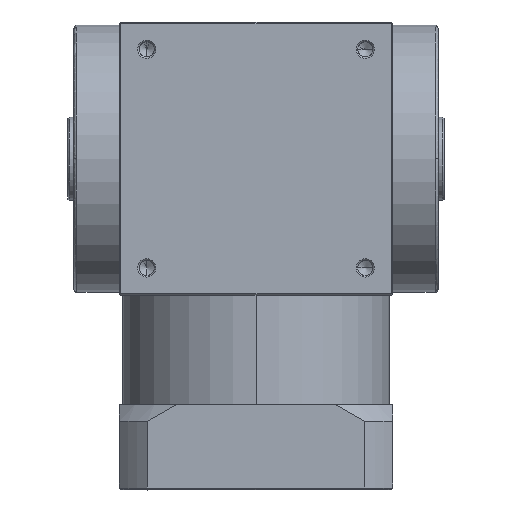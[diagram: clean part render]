
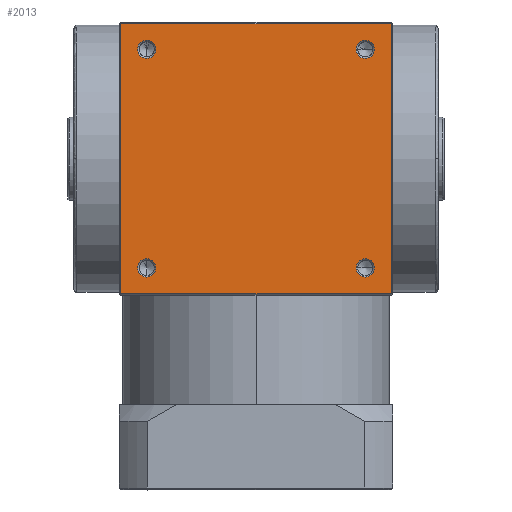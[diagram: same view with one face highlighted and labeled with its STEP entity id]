
A CAD part, top view. The second image highlights one B-rep face of the part: STEP entity #2013.
In plain terms, the highlighted planar face has unit normal (0, 0, 1).
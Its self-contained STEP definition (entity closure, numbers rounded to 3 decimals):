
#61 = VERTEX_POINT ( 'NONE', #9360 ) ;
#226 = EDGE_CURVE ( 'NONE', #9577, #5199, #6725, .T. ) ;
#325 = CIRCLE ( 'NONE', #4243, 3. ) ;
#573 = CIRCLE ( 'NONE', #5716, 3. ) ;
#1166 = ORIENTED_EDGE ( 'NONE', *, *, #6539, .F. ) ;
#1169 = CIRCLE ( 'NONE', #9076, 3. ) ;
#1264 = CARTESIAN_POINT ( 'NONE',  ( 44.5, -44.5, 45. ) ) ;
#1687 = DIRECTION ( 'NONE',  ( 1., 0., 0. ) ) ;
#1734 = DIRECTION ( 'NONE',  ( 0., 0., 1. ) ) ;
#1798 = CARTESIAN_POINT ( 'NONE',  ( -36., 36., 45. ) ) ;
#1849 = DIRECTION ( 'NONE',  ( -1., 0., 0. ) ) ;
#1899 = CARTESIAN_POINT ( 'NONE',  ( 39., 36., 45. ) ) ;
#1901 = LINE ( 'NONE', #7416, #4098 ) ;
#1995 = CIRCLE ( 'NONE', #3889, 3. ) ;
#2007 = EDGE_LOOP ( 'NONE', ( #2630, #6371 ) ) ;
#2013 = ADVANCED_FACE ( 'NONE', ( #5605, #9694, #7586, #4809, #10991 ), #8038, .F. ) ;
#2275 = VERTEX_POINT ( 'NONE', #10968 ) ;
#2606 = VECTOR ( 'NONE', #9851, 1000. ) ;
#2630 = ORIENTED_EDGE ( 'NONE', *, *, #7395, .F. ) ;
#2709 = ORIENTED_EDGE ( 'NONE', *, *, #10804, .F. ) ;
#2773 = EDGE_LOOP ( 'NONE', ( #9977, #1166 ) ) ;
#2821 = DIRECTION ( 'NONE',  ( 0., -1., 0. ) ) ;
#2822 = DIRECTION ( 'NONE',  ( -1., 0., 0. ) ) ;
#2952 = AXIS2_PLACEMENT_3D ( 'NONE', #1798, #1734, #1687 ) ;
#3051 = CARTESIAN_POINT ( 'NONE',  ( -33., -36., 45. ) ) ;
#3157 = ORIENTED_EDGE ( 'NONE', *, *, #11716, .F. ) ;
#3234 = CARTESIAN_POINT ( 'NONE',  ( 44.5, 44.5, 45. ) ) ;
#3246 = VERTEX_POINT ( 'NONE', #1899 ) ;
#3523 = EDGE_LOOP ( 'NONE', ( #9446, #2709 ) ) ;
#3889 = AXIS2_PLACEMENT_3D ( 'NONE', #10894, #5395, #11817 ) ;
#3924 = VERTEX_POINT ( 'NONE', #5522 ) ;
#4098 = VECTOR ( 'NONE', #2821, 1000. ) ;
#4243 = AXIS2_PLACEMENT_3D ( 'NONE', #5262, #5224, #5197 ) ;
#4749 = ORIENTED_EDGE ( 'NONE', *, *, #226, .F. ) ;
#4795 = VERTEX_POINT ( 'NONE', #10611 ) ;
#4809 = FACE_BOUND ( 'NONE', #2007, .T. ) ;
#4875 = EDGE_LOOP ( 'NONE', ( #4749, #9554 ) ) ;
#4955 = EDGE_CURVE ( 'NONE', #3246, #7680, #573, .T. ) ;
#4978 = EDGE_CURVE ( 'NONE', #2275, #6315, #7058, .T. ) ;
#5046 = VERTEX_POINT ( 'NONE', #7870 ) ;
#5197 = DIRECTION ( 'NONE',  ( 1., 0., 0. ) ) ;
#5199 = VERTEX_POINT ( 'NONE', #6541 ) ;
#5224 = DIRECTION ( 'NONE',  ( 0., 0., 1. ) ) ;
#5262 = CARTESIAN_POINT ( 'NONE',  ( 36., 36., 45. ) ) ;
#5394 = CIRCLE ( 'NONE', #9576, 3. ) ;
#5395 = DIRECTION ( 'NONE',  ( 0., 0., 1. ) ) ;
#5445 = VERTEX_POINT ( 'NONE', #3051 ) ;
#5521 = LINE ( 'NONE', #3234, #6303 ) ;
#5522 = CARTESIAN_POINT ( 'NONE',  ( 33., -36., 45. ) ) ;
#5605 = FACE_BOUND ( 'NONE', #4875, .T. ) ;
#5623 = CARTESIAN_POINT ( 'NONE',  ( 44.5, -44.5, 45. ) ) ;
#5716 = AXIS2_PLACEMENT_3D ( 'NONE', #9089, #9065, #9053 ) ;
#5935 = CARTESIAN_POINT ( 'NONE',  ( 33., 36., 45. ) ) ;
#6081 = EDGE_CURVE ( 'NONE', #5445, #5046, #5394, .T. ) ;
#6173 = EDGE_CURVE ( 'NONE', #3924, #6176, #9246, .T. ) ;
#6176 = VERTEX_POINT ( 'NONE', #11200 ) ;
#6303 = VECTOR ( 'NONE', #2822, 1000. ) ;
#6315 = VERTEX_POINT ( 'NONE', #8610 ) ;
#6371 = ORIENTED_EDGE ( 'NONE', *, *, #6173, .F. ) ;
#6510 = DIRECTION ( 'NONE',  ( 0., 0., -1. ) ) ;
#6539 = EDGE_CURVE ( 'NONE', #7680, #3246, #325, .T. ) ;
#6541 = CARTESIAN_POINT ( 'NONE',  ( -39., 36., 45. ) ) ;
#6557 = CIRCLE ( 'NONE', #2952, 3. ) ;
#6578 = AXIS2_PLACEMENT_3D ( 'NONE', #8526, #8513, #8496 ) ;
#6725 = CIRCLE ( 'NONE', #6578, 3. ) ;
#7058 = LINE ( 'NONE', #9162, #2606 ) ;
#7395 = EDGE_CURVE ( 'NONE', #6176, #3924, #1169, .T. ) ;
#7416 = CARTESIAN_POINT ( 'NONE',  ( 44.5, -44.5, 45. ) ) ;
#7533 = ORIENTED_EDGE ( 'NONE', *, *, #11129, .F. ) ;
#7586 = FACE_BOUND ( 'NONE', #3523, .T. ) ;
#7680 = VERTEX_POINT ( 'NONE', #5935 ) ;
#7855 = AXIS2_PLACEMENT_3D ( 'NONE', #5623, #6510, #1849 ) ;
#7863 = EDGE_CURVE ( 'NONE', #4795, #6315, #5521, .T. ) ;
#7870 = CARTESIAN_POINT ( 'NONE',  ( -39., -36., 45. ) ) ;
#7939 = EDGE_CURVE ( 'NONE', #5199, #9577, #6557, .T. ) ;
#8038 = PLANE ( 'NONE',  #7855 ) ;
#8205 = ORIENTED_EDGE ( 'NONE', *, *, #7863, .T. ) ;
#8496 = DIRECTION ( 'NONE',  ( 1., 0., 0. ) ) ;
#8513 = DIRECTION ( 'NONE',  ( 0., 0., 1. ) ) ;
#8526 = CARTESIAN_POINT ( 'NONE',  ( -36., 36., 45. ) ) ;
#8573 = DIRECTION ( 'NONE',  ( -1., 0., 0. ) ) ;
#8610 = CARTESIAN_POINT ( 'NONE',  ( -44.5, 44.5, 45. ) ) ;
#8851 = VECTOR ( 'NONE', #8573, 1000. ) ;
#9053 = DIRECTION ( 'NONE',  ( 1., 0., 0. ) ) ;
#9065 = DIRECTION ( 'NONE',  ( 0., 0., 1. ) ) ;
#9076 = AXIS2_PLACEMENT_3D ( 'NONE', #9779, #9761, #9741 ) ;
#9089 = CARTESIAN_POINT ( 'NONE',  ( 36., 36., 45. ) ) ;
#9162 = CARTESIAN_POINT ( 'NONE',  ( -44.5, -44.5, 45. ) ) ;
#9246 = CIRCLE ( 'NONE', #9413, 3. ) ;
#9360 = CARTESIAN_POINT ( 'NONE',  ( 44.5, -44.5, 45. ) ) ;
#9413 = AXIS2_PLACEMENT_3D ( 'NONE', #11037, #10997, #10962 ) ;
#9446 = ORIENTED_EDGE ( 'NONE', *, *, #6081, .F. ) ;
#9554 = ORIENTED_EDGE ( 'NONE', *, *, #7939, .F. ) ;
#9576 = AXIS2_PLACEMENT_3D ( 'NONE', #11419, #11372, #11350 ) ;
#9577 = VERTEX_POINT ( 'NONE', #11715 ) ;
#9694 = FACE_BOUND ( 'NONE', #2773, .T. ) ;
#9741 = DIRECTION ( 'NONE',  ( 1., 0., 0. ) ) ;
#9761 = DIRECTION ( 'NONE',  ( 0., 0., 1. ) ) ;
#9779 = CARTESIAN_POINT ( 'NONE',  ( 36., -36., 45. ) ) ;
#9851 = DIRECTION ( 'NONE',  ( 0., 1., 0. ) ) ;
#9977 = ORIENTED_EDGE ( 'NONE', *, *, #4955, .F. ) ;
#10047 = ORIENTED_EDGE ( 'NONE', *, *, #4978, .F. ) ;
#10250 = EDGE_LOOP ( 'NONE', ( #8205, #10047, #3157, #7533 ) ) ;
#10611 = CARTESIAN_POINT ( 'NONE',  ( 44.5, 44.5, 45. ) ) ;
#10804 = EDGE_CURVE ( 'NONE', #5046, #5445, #1995, .T. ) ;
#10894 = CARTESIAN_POINT ( 'NONE',  ( -36., -36., 45. ) ) ;
#10962 = DIRECTION ( 'NONE',  ( 1., 0., 0. ) ) ;
#10968 = CARTESIAN_POINT ( 'NONE',  ( -44.5, -44.5, 45. ) ) ;
#10991 = FACE_OUTER_BOUND ( 'NONE', #10250, .T. ) ;
#10997 = DIRECTION ( 'NONE',  ( 0., 0., 1. ) ) ;
#11037 = CARTESIAN_POINT ( 'NONE',  ( 36., -36., 45. ) ) ;
#11129 = EDGE_CURVE ( 'NONE', #4795, #61, #1901, .T. ) ;
#11200 = CARTESIAN_POINT ( 'NONE',  ( 39., -36., 45. ) ) ;
#11350 = DIRECTION ( 'NONE',  ( 1., 0., 0. ) ) ;
#11372 = DIRECTION ( 'NONE',  ( 0., 0., 1. ) ) ;
#11419 = CARTESIAN_POINT ( 'NONE',  ( -36., -36., 45. ) ) ;
#11715 = CARTESIAN_POINT ( 'NONE',  ( -33., 36., 45. ) ) ;
#11716 = EDGE_CURVE ( 'NONE', #61, #2275, #11870, .T. ) ;
#11817 = DIRECTION ( 'NONE',  ( 1., 0., 0. ) ) ;
#11870 = LINE ( 'NONE', #1264, #8851 ) ;
